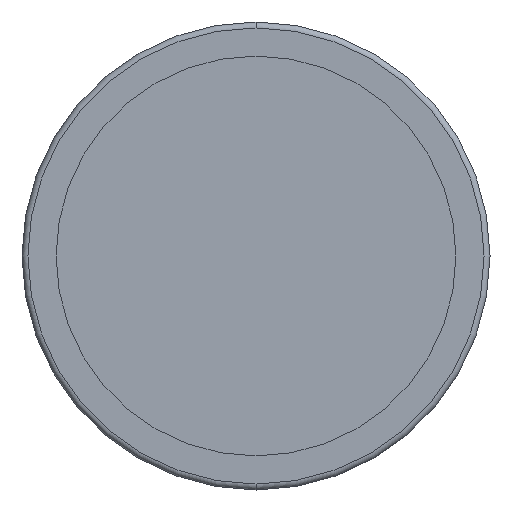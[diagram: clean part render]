
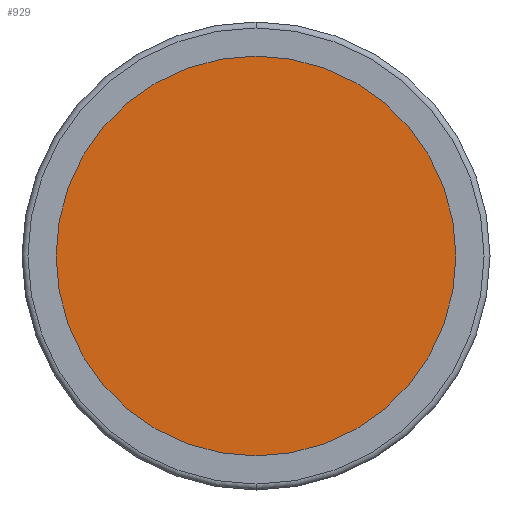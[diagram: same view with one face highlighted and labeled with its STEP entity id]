
A CAD part, front view. The second image highlights one B-rep face of the part: STEP entity #929.
In plain terms, the highlighted planar face has unit normal (0, -1, 0).
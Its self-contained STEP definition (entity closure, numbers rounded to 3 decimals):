
#64 = VERTEX_POINT ( 'NONE', #1598 ) ;
#123 = EDGE_CURVE ( 'NONE', #64, #3153, #2808, .T. ) ;
#138 = CARTESIAN_POINT ( 'NONE',  ( 0., -2., -33.75 ) ) ;
#296 = DIRECTION ( 'NONE',  ( 0., 0., -1. ) ) ;
#406 = EDGE_LOOP ( 'NONE', ( #2273, #2774 ) ) ;
#459 = PLANE ( 'NONE',  #1494 ) ;
#514 = AXIS2_PLACEMENT_3D ( 'NONE', #847, #1114, #885 ) ;
#847 = CARTESIAN_POINT ( 'NONE',  ( 0., -2., 0. ) ) ;
#870 = DIRECTION ( 'NONE',  ( 0., 1., 0. ) ) ;
#885 = DIRECTION ( 'NONE',  ( 0., 0., 1. ) ) ;
#929 = ADVANCED_FACE ( 'NONE', ( #1957 ), #459, .T. ) ;
#1048 = EDGE_CURVE ( 'NONE', #3153, #64, #1235, .T. ) ;
#1114 = DIRECTION ( 'NONE',  ( 0., 1., 0. ) ) ;
#1235 = CIRCLE ( 'NONE', #514, 33.75 ) ;
#1309 = CARTESIAN_POINT ( 'NONE',  ( -33.75, -2., 0. ) ) ;
#1423 = AXIS2_PLACEMENT_3D ( 'NONE', #1628, #870, #2619 ) ;
#1494 = AXIS2_PLACEMENT_3D ( 'NONE', #1309, #3032, #296 ) ;
#1598 = CARTESIAN_POINT ( 'NONE',  ( 0., -2., 33.75 ) ) ;
#1628 = CARTESIAN_POINT ( 'NONE',  ( 0., -2., 0. ) ) ;
#1957 = FACE_OUTER_BOUND ( 'NONE', #406, .T. ) ;
#2273 = ORIENTED_EDGE ( 'NONE', *, *, #123, .F. ) ;
#2619 = DIRECTION ( 'NONE',  ( 0., 0., 1. ) ) ;
#2774 = ORIENTED_EDGE ( 'NONE', *, *, #1048, .F. ) ;
#2808 = CIRCLE ( 'NONE', #1423, 33.75 ) ;
#3032 = DIRECTION ( 'NONE',  ( 0., -1., 0. ) ) ;
#3153 = VERTEX_POINT ( 'NONE', #138 ) ;
